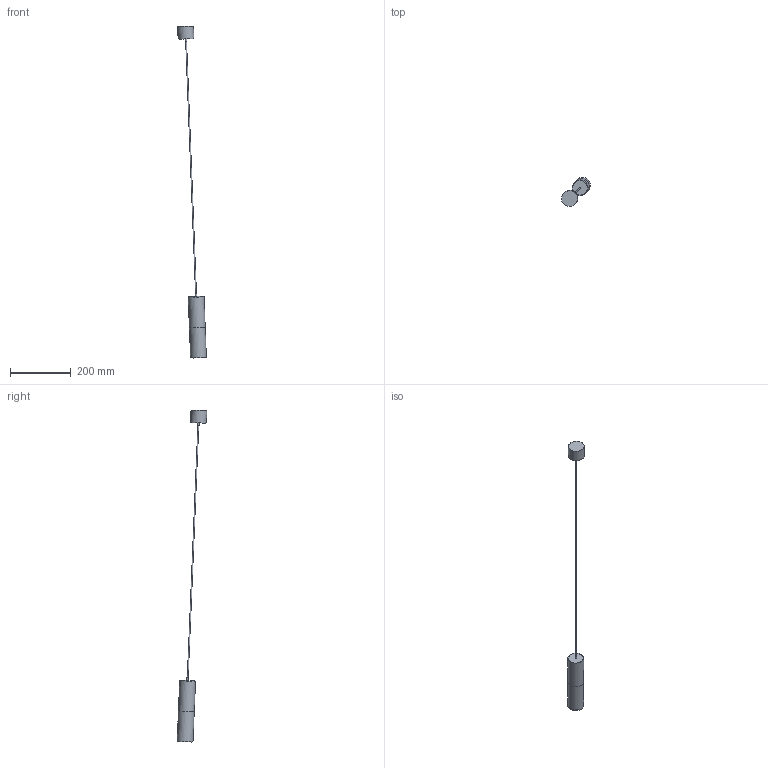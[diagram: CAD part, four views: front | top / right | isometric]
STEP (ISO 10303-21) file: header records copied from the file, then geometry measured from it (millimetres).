
FILE_DESCRIPTION(/* description */ (''),/* implementation_level */ '2;1');
FILE_NAME(/* name */ 'D:\TK Lighting\2021\_Elit\Elit Black 4366.stp',/* time_stamp */ '2021-04-05T22:31:44+02:00',/* author */ ('Admin'),/* organization */ (''),/* preprocessor_version */ 'ST-DEVELOPER v16.5',/* originating_system */ 'Autodesk Inventor 2017',/* authorisation */ '');
FILE_SCHEMA (('AUTOMOTIVE_DESIGN { 1 0 10303 214 3 1 1 }'));
Length unit declared in the file: inch
Products named in the file (3): Eliteb4366; Elit Black 4366 Klosz; Elit Black 4366 Zawiesie
Assembly tree (2 placements, depth 2):
  Eliteb4366
    Elit Black 4366 Klosz
    Elit Black 4366 Zawiesie
Bounding box: 94.57 x 97.5 x 1091.19 mm (x, y, z)
Volume: 161278 mm3; surface area: 89039.5 mm2
Topology: 2 solids, 3 shells, 20 faces, 28 edges, 19 vertices
Faces by surface type: plane 11, cylinder 8, torus 1
Full cylindrical faces by diameter (mm): 3 x1, 5 x2, 48 x2, 52 x3
Entity records: 498 total; most frequent: DIRECTION 84, CARTESIAN_POINT 59, AXIS2_PLACEMENT_3D 42, EDGE_LOOP 34, ORIENTED_EDGE 34, FACE_OUTER_BOUND 20, ADVANCED_FACE 20, CIRCLE 17
